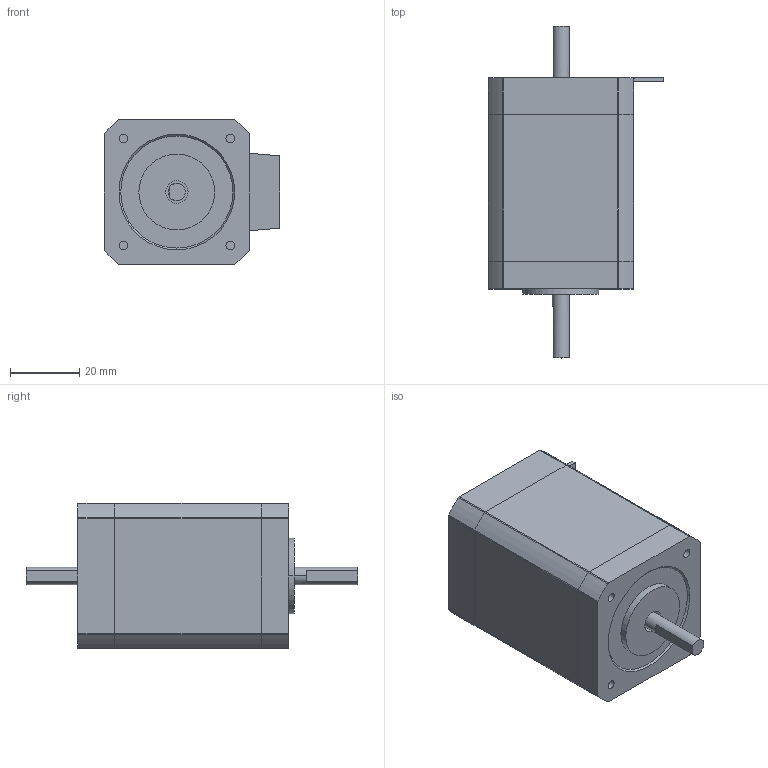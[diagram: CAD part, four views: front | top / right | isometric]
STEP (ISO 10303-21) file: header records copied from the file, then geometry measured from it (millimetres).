
FILE_DESCRIPTION (( 'STEP AP203' ), '1' );
FILE_NAME ('42CM05-D V3.0.STEP', '2026-09-09T08:05:36', ( 'YOS' ), ( 'MS' ), 'SwSTEP 2.0', 'SolidWorks 2023', '' );
FILE_SCHEMA (( 'CONFIG_CONTROL_DESIGN' ));
Length unit declared in the file: millimetre
Products named in the file (5): cross recessed small pan head screws gb_GB_CROSS_SCREWS_TYPE3 M3X30-30-S; 42五相后端盖（出轴15）; 42五相定子-H42.5; 42CM05-D V3.0; 42五相前端盖（出轴18.5）
Assembly tree (7 placements, depth 2):
  42CM05-D V3.0
    42五相定子-H42.5
    42五相后端盖（出轴15）
    42五相前端盖（出轴18.5）
    cross recessed small pan head screws gb_GB_CROSS_SCREWS_TYPE3 M3X30-30-S  x4
Bounding box: 50.98 x 96.2 x 42.18 mm (x, y, z)
Volume: 104676.5 mm3; surface area: 26549.6 mm2
Topology: 9 solids, 9 shells, 2418 faces, 4976 edges, 2586 vertices
Faces by surface type: cone 1466, cylinder 838, plane 106, sphere 8
Entity records: 19109 total; most frequent: DIRECTION 3646, CARTESIAN_POINT 3029, ORIENTED_EDGE 2980, EDGE_CURVE 1490, AXIS2_PLACEMENT_3D 1451, VERTEX_POINT 810, VECTOR 744, LINE 744
